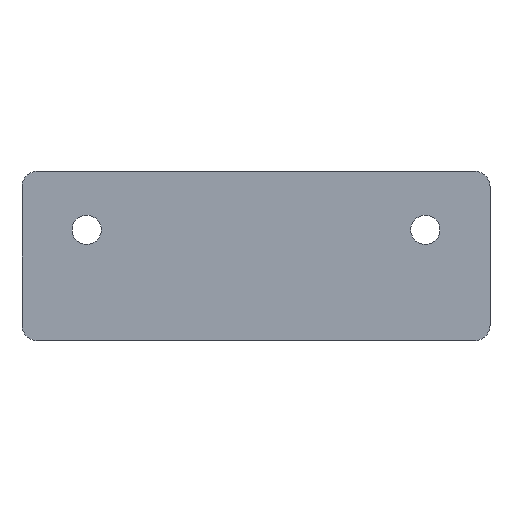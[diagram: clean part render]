
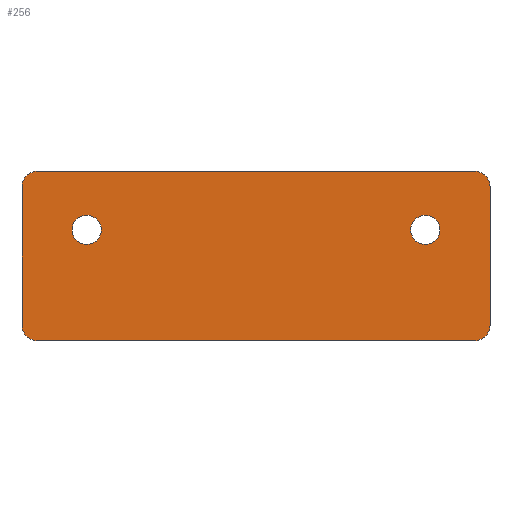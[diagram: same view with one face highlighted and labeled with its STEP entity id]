
A CAD part, top view. The second image highlights one B-rep face of the part: STEP entity #256.
In plain terms, the highlighted planar face has unit normal (0, 0, 1).
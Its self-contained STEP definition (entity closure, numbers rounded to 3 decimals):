
#43=FACE_BOUND('',#77,.T.);
#44=FACE_BOUND('',#78,.T.);
#50=PLANE('',#303);
#62=FACE_OUTER_BOUND('',#76,.T.);
#76=EDGE_LOOP('',(#229,#230,#231,#232,#233,#234,#235,#236));
#77=EDGE_LOOP('',(#237));
#78=EDGE_LOOP('',(#238));
#83=LINE('',#405,#101);
#89=LINE('',#429,#107);
#92=LINE('',#437,#110);
#96=LINE('',#451,#114);
#101=VECTOR('',#324,10.);
#107=VECTOR('',#348,10.);
#110=VECTOR('',#357,10.);
#114=VECTOR('',#375,10.);
#115=CIRCLE('',#281,5.);
#122=CIRCLE('',#291,5.);
#123=CIRCLE('',#294,5.);
#124=CIRCLE('',#297,5.);
#125=CIRCLE('',#299,4.75);
#126=CIRCLE('',#301,4.75);
#129=VERTEX_POINT('',#392);
#130=VERTEX_POINT('',#393);
#134=VERTEX_POINT('',#403);
#142=VERTEX_POINT('',#423);
#143=VERTEX_POINT('',#427);
#144=VERTEX_POINT('',#431);
#145=VERTEX_POINT('',#432);
#146=VERTEX_POINT('',#439);
#147=VERTEX_POINT('',#443);
#148=VERTEX_POINT('',#447);
#149=EDGE_CURVE('',#129,#130,#115,.T.);
#155=EDGE_CURVE('',#129,#134,#83,.T.);
#164=EDGE_CURVE('',#142,#134,#122,.T.);
#167=EDGE_CURVE('',#142,#143,#89,.T.);
#168=EDGE_CURVE('',#144,#145,#123,.T.);
#171=EDGE_CURVE('',#144,#130,#92,.T.);
#172=EDGE_CURVE('',#146,#143,#124,.T.);
#174=EDGE_CURVE('',#147,#147,#125,.T.);
#176=EDGE_CURVE('',#148,#148,#126,.T.);
#178=EDGE_CURVE('',#146,#145,#96,.T.);
#229=ORIENTED_EDGE('',*,*,#149,.F.);
#230=ORIENTED_EDGE('',*,*,#155,.T.);
#231=ORIENTED_EDGE('',*,*,#164,.F.);
#232=ORIENTED_EDGE('',*,*,#167,.T.);
#233=ORIENTED_EDGE('',*,*,#172,.F.);
#234=ORIENTED_EDGE('',*,*,#178,.T.);
#235=ORIENTED_EDGE('',*,*,#168,.F.);
#236=ORIENTED_EDGE('',*,*,#171,.T.);
#237=ORIENTED_EDGE('',*,*,#176,.T.);
#238=ORIENTED_EDGE('',*,*,#174,.T.);
#256=ADVANCED_FACE('',(#62,#43,#44),#50,.T.);
#281=AXIS2_PLACEMENT_3D('',#394,#314,#315);
#291=AXIS2_PLACEMENT_3D('',#424,#342,#343);
#294=AXIS2_PLACEMENT_3D('',#433,#351,#352);
#297=AXIS2_PLACEMENT_3D('',#440,#360,#361);
#299=AXIS2_PLACEMENT_3D('',#444,#365,#366);
#301=AXIS2_PLACEMENT_3D('',#448,#370,#371);
#303=AXIS2_PLACEMENT_3D('',#452,#376,#377);
#314=DIRECTION('center_axis',(0.,0.,-1.));
#315=DIRECTION('ref_axis',(0.707,-0.707,0.));
#324=DIRECTION('',(0.,1.,0.));
#342=DIRECTION('center_axis',(0.,0.,-1.));
#343=DIRECTION('ref_axis',(0.707,0.707,0.));
#348=DIRECTION('',(-1.,0.,0.));
#351=DIRECTION('center_axis',(0.,0.,-1.));
#352=DIRECTION('ref_axis',(-0.707,-0.707,0.));
#357=DIRECTION('',(1.,0.,0.));
#360=DIRECTION('center_axis',(0.,0.,-1.));
#361=DIRECTION('ref_axis',(-0.707,0.707,0.));
#365=DIRECTION('center_axis',(0.,0.,-1.));
#366=DIRECTION('ref_axis',(-1.,0.,0.));
#370=DIRECTION('center_axis',(0.,0.,-1.));
#371=DIRECTION('ref_axis',(-1.,0.,0.));
#375=DIRECTION('',(0.,-1.,0.));
#376=DIRECTION('center_axis',(0.,0.,1.));
#377=DIRECTION('ref_axis',(1.,0.,0.));
#392=CARTESIAN_POINT('',(76.,-22.5,0.25));
#393=CARTESIAN_POINT('',(71.,-27.5,0.25));
#394=CARTESIAN_POINT('Origin',(71.,-22.5,0.25));
#403=CARTESIAN_POINT('',(76.,22.5,0.25));
#405=CARTESIAN_POINT('',(76.,-27.5,0.25));
#423=CARTESIAN_POINT('',(71.,27.5,0.25));
#424=CARTESIAN_POINT('Origin',(71.,22.5,0.25));
#427=CARTESIAN_POINT('',(-71.,27.5,0.25));
#429=CARTESIAN_POINT('',(76.,27.5,0.25));
#431=CARTESIAN_POINT('',(-71.,-27.5,0.25));
#432=CARTESIAN_POINT('',(-76.,-22.5,0.25));
#433=CARTESIAN_POINT('Origin',(-71.,-22.5,0.25));
#437=CARTESIAN_POINT('',(-76.,-27.5,0.25));
#439=CARTESIAN_POINT('',(-76.,22.5,0.25));
#440=CARTESIAN_POINT('Origin',(-71.,22.5,0.25));
#443=CARTESIAN_POINT('',(59.75,8.5,0.25));
#444=CARTESIAN_POINT('Origin',(55.,8.5,0.25));
#447=CARTESIAN_POINT('',(-50.25,8.5,0.25));
#448=CARTESIAN_POINT('Origin',(-55.,8.5,0.25));
#451=CARTESIAN_POINT('',(-76.,27.5,0.25));
#452=CARTESIAN_POINT('Origin',(-38.,0.,0.25));
